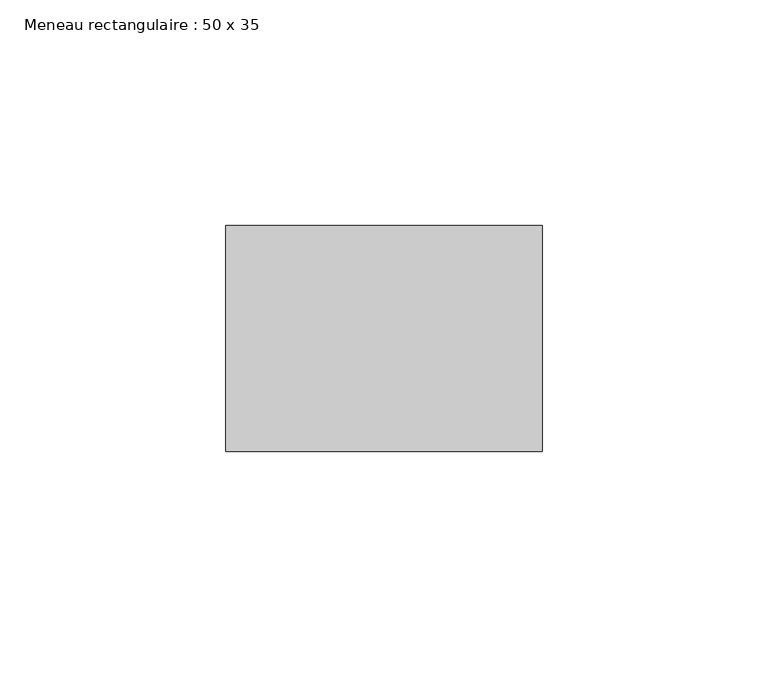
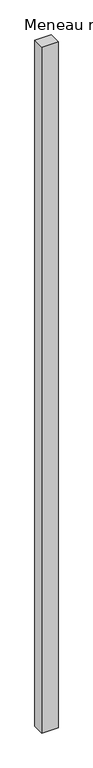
"""IFC4 building model written with IfcOpenShell, lengths in millimetres: member geometry, Meneau rectangulaire : 50 x 35."""

from ifc_helpers import new_model, si_unit, frame, origin, place, context, project, spatial, polyline, outline, extrude, source, transform, mapped, element, save


def meneau_rectangulaire_50_x_35_46cb9730(model_context):
    return source(origin(), model_context, "Body", "SweptSolid", [
        extrude(outline(polyline([(0.0, 0.0), (0.0, -50.0), (-70.0, -50.0), (-70.0, 0.0), (0.0, 0.0)])), frame((0.0, 0.0, -3101.0), z_axis=(0.0, 0.0, 1.0), x_axis=(1.0, 0.0, 0.0)), (0.0, 0.0, 1.0), 3101.0),
    ])


if __name__ == "__main__":
    model = new_model("IFC4")
    model_context = context("Model", 3, world=origin())
    ifc_project = project(units=[si_unit("LENGTHUNIT", "METRE", prefix="MILLI")], contexts=[model_context])
    site = spatial("IfcSite", under=ifc_project)
    building = spatial("IfcBuilding", under=site)
    placement = place(None, origin())
    meneau_rectangulaire_50_x_35_shape = meneau_rectangulaire_50_x_35_46cb9730(model_context)
    element("IfcMember", 1, ObjectType="Meneau rectangulaire : 50 x 35", at=placement, inside=building, context=model_context, shape_type="MappedRepresentation", body=[
        mapped(meneau_rectangulaire_50_x_35_shape, transform((0.0, 0.0, 0.0), x_axis=(1.0, 0.0, 0.0), y_axis=(0.0, 1.0, 0.0), z_axis=(0.0, 0.0, 1.0))),
    ])
    save(model, "model.ifc")
